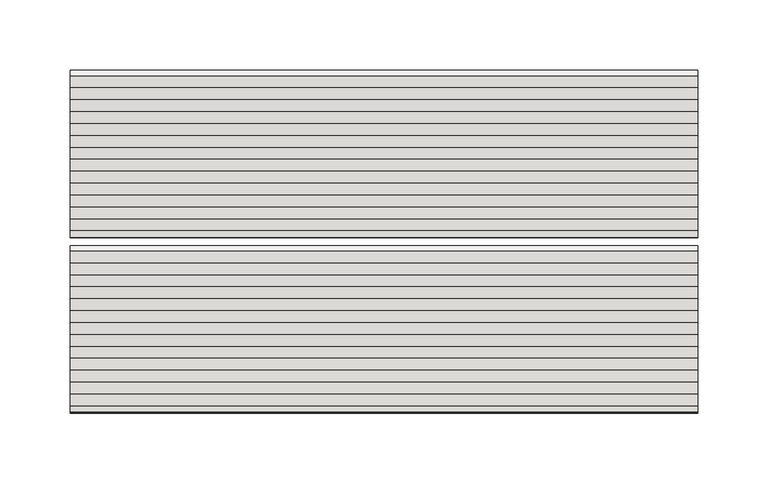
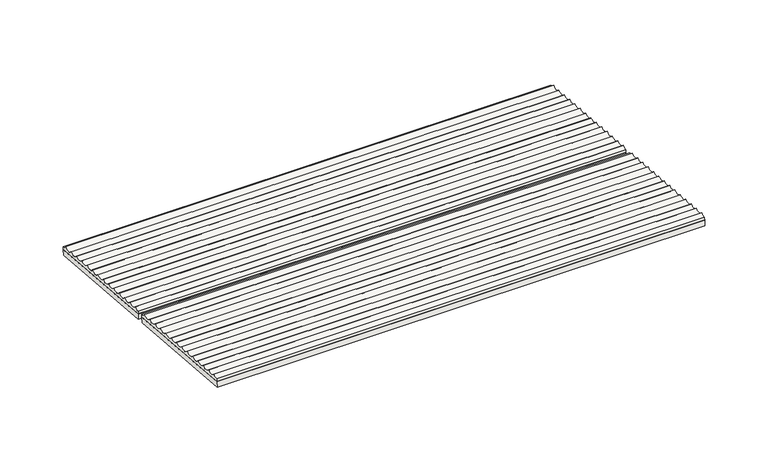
"""IFC4 building model written with IfcOpenShell, lengths in millimetres: slab geometry, ROSA GRES_001 (2 filas) : Piezas 001_Aqua_Blanco_Anti-Slip."""

from ifc_helpers import new_model, si_unit, point, frame, frame_2d, origin, place, context, project, spatial, polyline, circle_curve, trimmed, segment, composite_curve, outline, extrude, source, transform, mapped, element, save


def slab_ed70fe2e(model_context):
    return source(origin(), model_context, "Body", "SweptSolid", [
        extrude(outline(polyline([(59.4997999, 0.0), (59.4997999, -446.1165048), (-59.4998, -446.1165048), (-59.4998, 0.0), (59.4997999, 0.0)])), frame((446.1165048, -183.3614376, 204.5238637), z_axis=(0.0, 0.08112705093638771, 0.9967037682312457), x_axis=(0.0, -0.9967037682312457, 0.08112705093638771)), (0.0, 0.0, 1.0), 5.0),
        extrude(outline(polyline([(59.4998, 0.0), (59.4998, -446.1165048), (-59.4997999, -446.1165048), (-59.4997999, 0.0), (59.4998, 0.0)])), frame((446.1165048, -307.9490099, 214.6647126), z_axis=(0.0, 0.08112705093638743, 0.9967037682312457), x_axis=(0.0, -0.9967037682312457, 0.08112705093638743)), (0.0, 0.0, 1.0), 5.0),
        extrude(outline(composite_curve([segment(polyline([(-242.2594772, 214.3344258), (-242.046278, 216.9537305)]), True, "CONTINUOUS"), segment(trimmed(circle_curve(frame_2d((-241.5926747, 222.5265709)), 5.5912705), [point((-242.046278, 216.9537305))], [point((-237.6514463, 218.5605875))], True, "CARTESIAN"), True, "CONTINUOUS"), segment(trimmed(circle_curve(frame_2d((-233.1207211, 221.8369933)), 5.5912705), [point((-237.6514463, 218.5605875))], [point((-229.1794928, 217.8710099))], True, "CARTESIAN"), True, "CONTINUOUS"), segment(trimmed(circle_curve(frame_2d((-224.6487676, 221.1474157)), 5.5912705), [point((-229.1794928, 217.8710099))], [point((-220.7075392, 217.1814322))], True, "CARTESIAN"), True, "CONTINUOUS"), segment(trimmed(circle_curve(frame_2d((-216.176814, 220.457838)), 5.5912705), [point((-220.7075392, 217.1814322))], [point((-212.2355856, 216.4918546))], True, "CARTESIAN"), True, "CONTINUOUS"), segment(trimmed(circle_curve(frame_2d((-207.7048605, 219.7682604)), 5.5912705), [point((-212.2355856, 216.4918546))], [point((-203.7636321, 215.802277))], True, "CARTESIAN"), True, "CONTINUOUS"), segment(trimmed(circle_curve(frame_2d((-199.2329069, 219.0786828)), 5.5912705), [point((-203.7636321, 215.802277))], [point((-195.2916785, 215.1126994))], True, "CARTESIAN"), True, "CONTINUOUS"), segment(trimmed(circle_curve(frame_2d((-190.7609534, 218.3891052)), 5.5912705), [point((-195.2916785, 215.1126994))], [point((-186.819725, 214.4231218))], True, "CARTESIAN"), True, "CONTINUOUS"), segment(trimmed(circle_curve(frame_2d((-182.2889998, 217.6995276)), 5.5912705), [point((-186.819725, 214.4231218))], [point((-178.3477714, 213.7335442))], True, "CARTESIAN"), True, "CONTINUOUS"), segment(trimmed(circle_curve(frame_2d((-173.8170463, 217.00995)), 5.5912705), [point((-178.3477714, 213.7335442))], [point((-169.8758179, 213.0439666))], True, "CARTESIAN"), True, "CONTINUOUS"), segment(trimmed(circle_curve(frame_2d((-165.3450927, 216.3203723)), 5.5912705), [point((-169.8758179, 213.0439666))], [point((-161.4038643, 212.3543889))], True, "CARTESIAN"), True, "CONTINUOUS"), segment(trimmed(circle_curve(frame_2d((-156.8731392, 215.6307947)), 5.5912705), [point((-161.4038643, 212.3543889))], [point((-152.9319108, 211.6648113))], True, "CARTESIAN"), True, "CONTINUOUS"), segment(trimmed(circle_curve(frame_2d((-148.4011856, 214.9412171)), 5.5912705), [point((-152.9319108, 211.6648113))], [point((-144.4599572, 210.9752337))], True, "CARTESIAN"), True, "CONTINUOUS"), segment(trimmed(circle_curve(frame_2d((-139.929232, 214.2516395)), 5.5912705), [point((-144.4599572, 210.9752337))], [point((-135.9880037, 210.2856561))], True, "CARTESIAN"), True, "CONTINUOUS"), segment(trimmed(circle_curve(frame_2d((-131.4572785, 213.5620619)), 5.5912705), [point((-135.9880037, 210.2856561))], [point((-127.5160501, 209.5960785))], True, "CARTESIAN"), True, "CONTINUOUS"), segment(trimmed(circle_curve(frame_2d((-122.9853249, 212.8724843)), 5.5912705), [point((-127.5160501, 209.5960785))], [point((-123.4389282, 207.2996439))], True, "CARTESIAN"), True, "CONTINUOUS"), segment(polyline([(-123.4389282, 207.2996439), (-123.6521274, 204.6803392), (-242.2594772, 214.3344258)]), True, "CONTINUOUS")], self_intersect=False)), frame((0.0, 0.0, 0.0), z_axis=(1.0, 0.0, 0.0), x_axis=(0.0, 1.0, 0.0)), (0.0, 0.0, 1.0), 446.1165048),
        extrude(outline(composite_curve([segment(polyline([(-366.8470495, 224.4752747), (-366.6338503, 227.0945794)]), True, "CONTINUOUS"), segment(trimmed(circle_curve(frame_2d((-366.180247, 232.6674198)), 5.5912705), [point((-366.6338503, 227.0945794))], [point((-362.2390187, 228.7014364))], True, "CARTESIAN"), True, "CONTINUOUS"), segment(trimmed(circle_curve(frame_2d((-357.7082935, 231.9778422)), 5.5912705), [point((-362.2390187, 228.7014364))], [point((-353.7670651, 228.0118588))], True, "CARTESIAN"), True, "CONTINUOUS"), segment(trimmed(circle_curve(frame_2d((-349.2363399, 231.2882646)), 5.5912705), [point((-353.7670651, 228.0118588))], [point((-345.2951115, 227.3222812))], True, "CARTESIAN"), True, "CONTINUOUS"), segment(trimmed(circle_curve(frame_2d((-340.7643864, 230.5986869)), 5.5912705), [point((-345.2951115, 227.3222812))], [point((-336.823158, 226.6327035))], True, "CARTESIAN"), True, "CONTINUOUS"), segment(trimmed(circle_curve(frame_2d((-332.2924328, 229.9091093)), 5.5912705), [point((-336.823158, 226.6327035))], [point((-328.3512044, 225.9431259))], True, "CARTESIAN"), True, "CONTINUOUS"), segment(trimmed(circle_curve(frame_2d((-323.8204793, 229.2195317)), 5.5912705), [point((-328.3512044, 225.9431259))], [point((-319.8792509, 225.2535483))], True, "CARTESIAN"), True, "CONTINUOUS"), segment(trimmed(circle_curve(frame_2d((-315.3485257, 228.5299541)), 5.5912705), [point((-319.8792509, 225.2535483))], [point((-311.4072973, 224.5639707))], True, "CARTESIAN"), True, "CONTINUOUS"), segment(trimmed(circle_curve(frame_2d((-306.8765722, 227.8403765)), 5.5912705), [point((-311.4072973, 224.5639707))], [point((-302.9353438, 223.8743931))], True, "CARTESIAN"), True, "CONTINUOUS"), segment(trimmed(circle_curve(frame_2d((-298.4046186, 227.1507989)), 5.5912705), [point((-302.9353438, 223.8743931))], [point((-294.4633902, 223.1848155))], True, "CARTESIAN"), True, "CONTINUOUS"), segment(trimmed(circle_curve(frame_2d((-289.9326651, 226.4612213)), 5.5912705), [point((-294.4633902, 223.1848155))], [point((-285.9914367, 222.4952379))], True, "CARTESIAN"), True, "CONTINUOUS"), segment(trimmed(circle_curve(frame_2d((-281.4607115, 225.7716436)), 5.5912705), [point((-285.9914367, 222.4952379))], [point((-277.5194831, 221.8056602))], True, "CARTESIAN"), True, "CONTINUOUS"), segment(trimmed(circle_curve(frame_2d((-272.9887579, 225.082066)), 5.5912705), [point((-277.5194831, 221.8056602))], [point((-269.0475296, 221.1160826))], True, "CARTESIAN"), True, "CONTINUOUS"), segment(trimmed(circle_curve(frame_2d((-264.5168044, 224.3924884)), 5.5912705), [point((-269.0475296, 221.1160826))], [point((-260.575576, 220.426505))], True, "CARTESIAN"), True, "CONTINUOUS"), segment(trimmed(circle_curve(frame_2d((-256.0448508, 223.7029108)), 5.5912705), [point((-260.575576, 220.426505))], [point((-252.1036225, 219.7369274))], True, "CARTESIAN"), True, "CONTINUOUS"), segment(trimmed(circle_curve(frame_2d((-247.5728973, 223.0133332)), 5.5912705), [point((-252.1036225, 219.7369274))], [point((-248.0265006, 217.4404928))], True, "CARTESIAN"), True, "CONTINUOUS"), segment(polyline([(-248.0265006, 217.4404928), (-248.2396998, 214.8211881), (-366.8470495, 224.4752747)]), True, "CONTINUOUS")], self_intersect=False)), frame((0.0, 0.0, 0.0), z_axis=(1.0, 0.0, 0.0), x_axis=(0.0, 1.0, 0.0)), (0.0, 0.0, 1.0), 446.1165048),
    ])


if __name__ == "__main__":
    model = new_model("IFC4")
    model_context = context("Model", 3, world=origin())
    ifc_project = project(units=[si_unit("LENGTHUNIT", "METRE", prefix="MILLI")], contexts=[model_context])
    site = spatial("IfcSite", under=ifc_project)
    building = spatial("IfcBuilding", under=site)
    placement = place(None, origin())
    slab_shape = slab_ed70fe2e(model_context)
    element("IfcSlab", 1, ObjectType="ROSA GRES_001 (2 filas) : Piezas 001_Aqua_Blanco_Anti-Slip", at=placement, inside=building, context=model_context, shape_type="MappedRepresentation", body=[
        mapped(slab_shape, transform((0.0, 0.0, 0.0), x_axis=(1.0, 0.0, 0.0), y_axis=(0.0, 1.0, 0.0), z_axis=(0.0, 0.0, 1.0))),
    ])
    save(model, "model.ifc")
